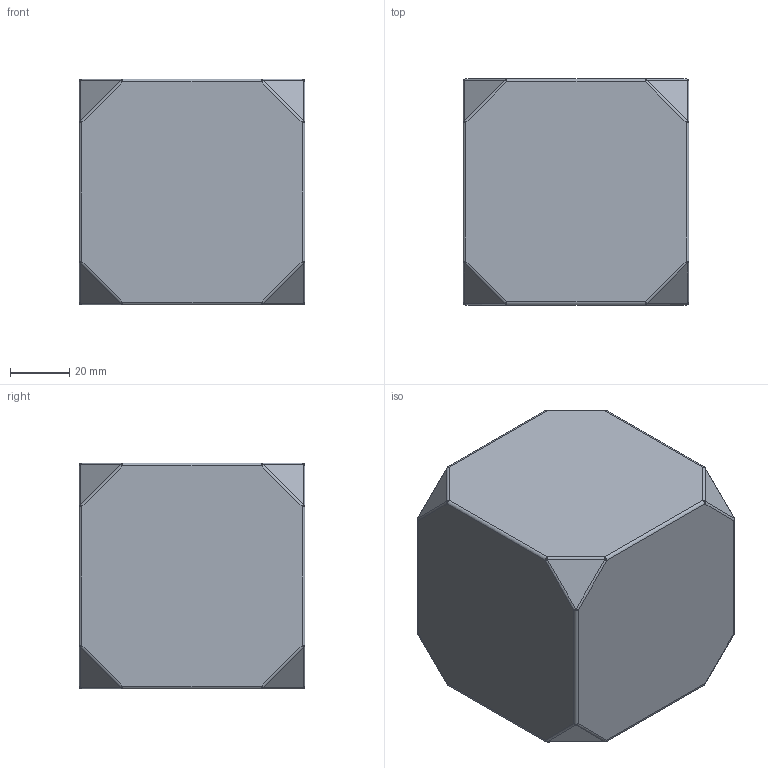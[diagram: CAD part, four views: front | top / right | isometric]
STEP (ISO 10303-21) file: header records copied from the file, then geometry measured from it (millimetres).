
FILE_DESCRIPTION (( 'STEP AP203' ), '1' );
FILE_NAME ('228-3251-001_rev3.STEP', '2014-04-01T14:44:38', ( '' ), ( '' ), 'SwSTEP 2.0', 'SolidWorks 2013', '' );
FILE_SCHEMA (( 'CONFIG_CONTROL_DESIGN' ));
Length unit declared in the file: millimetre
Products named in the file (1): 228-3251-001_rev3
Bounding box: 76.2 x 76.2 x 76.2 mm (x, y, z)
Volume: 437810.6 mm3; surface area: 33416.2 mm2
Topology: 1 solids, 1 shells, 82 faces, 208 edges, 96 vertices
Faces by surface type: cylinder 36, bspline 32, plane 14
Entity records: 2861 total; most frequent: CARTESIAN_POINT 1075, DIRECTION 382, ORIENTED_EDGE 352, EDGE_CURVE 176, AXIS2_PLACEMENT_3D 155, CIRCLE 104, VERTEX_POINT 96, EDGE_LOOP 82
